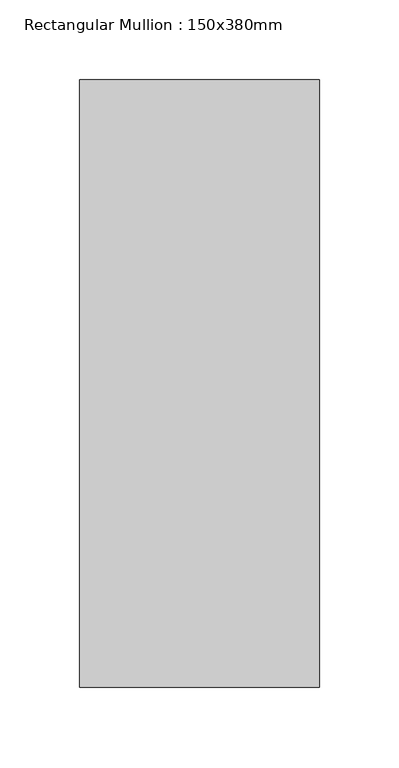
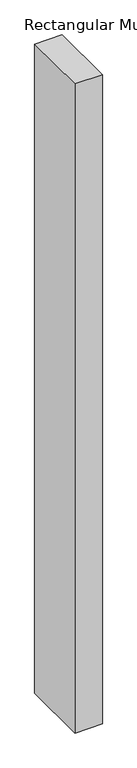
"""IFC4 building model written with IfcOpenShell, lengths in millimetres: member geometry, Rectangular Mullion : 150x380mm."""

import ifcopenshell
import ifcopenshell.guid

model = None  # the IFC model being written
_history = None  # IfcOwnerHistory: only IFC2X3 demands one
_inside = {}  # id of a spatial element -> (the spatial element, [elements in it])
_under = {}  # id of a project, library or spatial element -> (it, [spatial elements below it])
_declared = {}  # id of a project -> (the project, [libraries it declares])
_typed = {}  # id of a type object -> (the type object, [elements of that type])
_made_of = {}  # id of a material, layer set ... -> (it, [elements and type objects made of it])


def new_model(schema):
    """Start an empty IFC model of exactly this schema.

    Asked for "IFC4X3", IfcOpenShell would pick the latest addendum, in which some entities
    have other attributes; the version numbers below select the first issue.
    IFC2X3 requires an IfcOwnerHistory on every rooted entity: one is made here for all.
    """
    global model, _history
    if schema == "IFC4X3":
        model = ifcopenshell.file(schema_version=(4, 3, 0, 0))
    else:
        model = ifcopenshell.file(schema=schema)
    _inside.clear()
    _under.clear()
    _declared.clear()
    _typed.clear()
    _made_of.clear()
    _history = None
    if model.schema == "IFC2X3":
        org = make("IfcOrganization", Name="unknown")
        user = make(
            "IfcPersonAndOrganization",
            ThePerson=make("IfcPerson", FamilyName="unknown"),
            TheOrganization=org,
        )
        app = make(
            "IfcApplication",
            ApplicationDeveloper=org,
            Version="unknown",
            ApplicationFullName="unknown",
            ApplicationIdentifier="unknown",
        )
        _history = make(
            "IfcOwnerHistory",
            OwningUser=user,
            OwningApplication=app,
            ChangeAction="ADDED",
            CreationDate=0,
        )
    return model


def make(cls, **values):
    """One entity of the class cls with the attributes given. An attribute that is None is left unset."""
    return model.create_entity(
        cls, **{name: value for name, value in values.items() if value is not None}
    )


def rooted(cls, **values):
    """An entity with a GlobalId (a new one), such as an element, a storey or a relation."""
    return make(cls, GlobalId=ifcopenshell.guid.new(), OwnerHistory=_history, **values)


def si_unit(unit_type, name, prefix=None):
    """IfcSIUnit, for example si_unit("LENGTHUNIT", "METRE", prefix="MILLI")."""
    return make("IfcSIUnit", UnitType=unit_type, Prefix=prefix, Name=name)


def assignment(units):
    """IfcUnitAssignment: the units of a project."""
    return None if units is None else make("IfcUnitAssignment", Units=units)


def point(xyz):
    """IfcCartesianPoint."""
    return None if xyz is None else make("IfcCartesianPoint", Coordinates=xyz)


def direction(xyz):
    """IfcDirection."""
    return None if xyz is None else make("IfcDirection", DirectionRatios=xyz)


def frame(location, z_axis=None, x_axis=None):
    """IfcAxis2Placement3D, a coordinate frame: its origin and axes. An axis left out is left unset."""
    return make(
        "IfcAxis2Placement3D",
        Location=point(location),
        Axis=direction(z_axis),
        RefDirection=direction(x_axis),
    )


def origin():
    """The frame at (0, 0, 0) with its axes left unset."""
    return frame((0.0, 0.0, 0.0))


def place(relative_to, where):
    """IfcLocalPlacement: puts the frame where relative to a parent placement (None: the world)."""
    return make(
        "IfcLocalPlacement", PlacementRelTo=relative_to, RelativePlacement=where
    )


def context(
    kind, dimensions, precision=None, world=None, true_north=None, identifier=None
):
    """IfcGeometricRepresentationContext, for example the 3D "Model" context."""
    return make(
        "IfcGeometricRepresentationContext",
        ContextIdentifier=identifier,
        ContextType=kind,
        CoordinateSpaceDimension=dimensions,
        Precision=precision,
        WorldCoordinateSystem=world,
        TrueNorth=true_north,
    )


def project(units=None, contexts=None):
    """IfcProject with its units and contexts."""
    return rooted(
        "IfcProject",
        Name="project",
        RepresentationContexts=contexts,
        UnitsInContext=assignment(units),
    )


def spatial(cls, under=None, at=None, **own):
    """A site, building, storey or space (cls), placed at a placement, below another one or the project."""
    s = rooted(cls, ObjectPlacement=at, **own)
    if under is not None:
        _under.setdefault(under.id(), (under, []))[1].append(s)
    return s


def polyline(points):
    """IfcPolyline through the points."""
    return make("IfcPolyline", Points=[point(p) for p in points])


def outline(outer, holes=None, kind="AREA"):
    """IfcArbitraryClosedProfileDef: a profile drawn as a closed curve; with holes, ...WithVoids."""
    if holes is None:
        return make("IfcArbitraryClosedProfileDef", ProfileType=kind, OuterCurve=outer)
    return make(
        "IfcArbitraryProfileDefWithVoids",
        ProfileType=kind,
        OuterCurve=outer,
        InnerCurves=holes,
    )


def extrude(swept, where, along, depth):
    """IfcExtrudedAreaSolid: the profile swept, set in the frame where, extruded along a direction by depth."""
    return make(
        "IfcExtrudedAreaSolid",
        SweptArea=swept,
        Position=where,
        ExtrudedDirection=direction(along),
        Depth=depth,
    )


def shape(context_of_items, identifier, shape_type, items):
    """IfcShapeRepresentation: the items that make up one representation, for example the "Body"."""
    return make(
        "IfcShapeRepresentation",
        ContextOfItems=context_of_items,
        RepresentationIdentifier=identifier,
        RepresentationType=shape_type,
        Items=items,
    )


def source(mapping_origin, context_of_items, identifier, shape_type, items):
    """IfcRepresentationMap: a shape defined once, which mapped items show again and again."""
    return make(
        "IfcRepresentationMap",
        MappingOrigin=mapping_origin,
        MappedRepresentation=shape(context_of_items, identifier, shape_type, items),
    )


def transform(
    local_origin,
    x_axis=None,
    y_axis=None,
    z_axis=None,
    scale=None,
    scale2=None,
    scale3=None,
    uniform=True,
):
    """IfcCartesianTransformationOperator3D, or its non-uniform kind. x_axis, y_axis, z_axis: its Axis1, 2, 3."""
    if uniform:
        return make(
            "IfcCartesianTransformationOperator3D",
            Axis1=direction(x_axis),
            Axis2=direction(y_axis),
            LocalOrigin=point(local_origin),
            Scale=scale,
            Axis3=direction(z_axis),
        )
    return make(
        "IfcCartesianTransformationOperator3DnonUniform",
        Axis1=direction(x_axis),
        Axis2=direction(y_axis),
        LocalOrigin=point(local_origin),
        Scale=scale,
        Axis3=direction(z_axis),
        Scale2=scale2,
        Scale3=scale3,
    )


def mapped(mapping_source, mapping_target):
    """IfcMappedItem: shows the shape of a source again, moved by a transform."""
    return make(
        "IfcMappedItem", MappingSource=mapping_source, MappingTarget=mapping_target
    )


def made_of(thing, what):
    """Note that an element or type object is made of a material, layer set ...; save() writes the relation."""
    if what is not None:
        _made_of.setdefault(what.id(), (what, []))[1].append(thing)
    return thing


def element(
    cls,
    number,
    at=None,
    inside=None,
    cuts=None,
    type_object=None,
    material=None,
    context=None,
    identifier="Body",
    shape_type=None,
    held_by="IfcProductDefinitionShape",
    body=None,
    shapes=None,
    **own,
):
    """One element of the class cls, such as IfcWall. Its Tag is "e" and its number.

    at: its placement. inside: the storey or other place that contains it. cuts: it is an
    opening in that element (IfcRelVoidsElement). A single representation is given by context,
    identifier, shape_type and body (its items); several are given by shapes. held_by: the class
    of the entity that holds the representations. save() writes the other relations.
    """
    e = rooted(cls, Tag="e%d" % number, ObjectPlacement=at, **own)
    if body is not None:
        shapes = [shape(context, identifier, shape_type, body)]
    if shapes is not None:
        e.Representation = make(held_by, Representations=shapes)
    if inside is not None:
        _inside.setdefault(inside.id(), (inside, []))[1].append(e)
    if cuts is not None:
        rooted(
            "IfcRelVoidsElement", RelatingBuildingElement=cuts, RelatedOpeningElement=e
        )
    if type_object is not None:
        _typed.setdefault(type_object.id(), (type_object, []))[1].append(e)
    return made_of(e, material)


def aggregate(whole, parts):
    """IfcRelAggregates: a whole, such as a stair, and the parts it consists of."""
    return rooted("IfcRelAggregates", RelatingObject=whole, RelatedObjects=parts)


def save(model, path):
    """Write the relations noted so far, then the file.

    IfcRelAggregates (storeys below a building ...), IfcRelContainedInSpatialStructure (elements
    in a storey), IfcRelDefinesByType, IfcRelAssociatesMaterial and IfcRelDeclares: one each for
    every whole, place, type object, material and project.
    """
    for whole, parts in _under.values():
        aggregate(whole, parts)
    for where, things in _inside.values():
        rooted(
            "IfcRelContainedInSpatialStructure",
            RelatedElements=things,
            RelatingStructure=where,
        )
    for kind, things in _typed.values():
        rooted("IfcRelDefinesByType", RelatedObjects=things, RelatingType=kind)
    for what, things in _made_of.values():
        rooted("IfcRelAssociatesMaterial", RelatedObjects=things, RelatingMaterial=what)
    for by, libraries in _declared.values():
        rooted("IfcRelDeclares", RelatingContext=by, RelatedDefinitions=libraries)
    model.write(path)


def rectangular_mullion_150x380mm_bdb510d3(model_context):
    return source(origin(), model_context, "Body", "SweptSolid", [
        extrude(outline(polyline([(75.0, 190.0), (75.0, -190.0), (-75.0, -190.0), (-75.0, 190.0), (75.0, 190.0)])), frame((0.0, 0.0, -3750.0), z_axis=(0.0, 0.0, 1.0), x_axis=(1.0, 0.0, 0.0)), (0.0, 0.0, 1.0), 3750.0),
    ])


if __name__ == "__main__":
    model = new_model("IFC4")
    model_context = context("Model", 3, world=origin())
    ifc_project = project(units=[si_unit("LENGTHUNIT", "METRE", prefix="MILLI")], contexts=[model_context])
    site = spatial("IfcSite", under=ifc_project)
    building = spatial("IfcBuilding", under=site)
    placement = place(None, origin())
    rectangular_mullion_150x380mm_shape = rectangular_mullion_150x380mm_bdb510d3(model_context)
    element("IfcMember", 1, ObjectType="Rectangular Mullion : 150x380mm", at=placement, inside=building, context=model_context, shape_type="MappedRepresentation", body=[
        mapped(rectangular_mullion_150x380mm_shape, transform((0.0, 0.0, 0.0), x_axis=(1.0, 0.0, 0.0), y_axis=(0.0, 1.0, 0.0), z_axis=(0.0, 0.0, 1.0))),
    ])
    save(model, "model.ifc")
